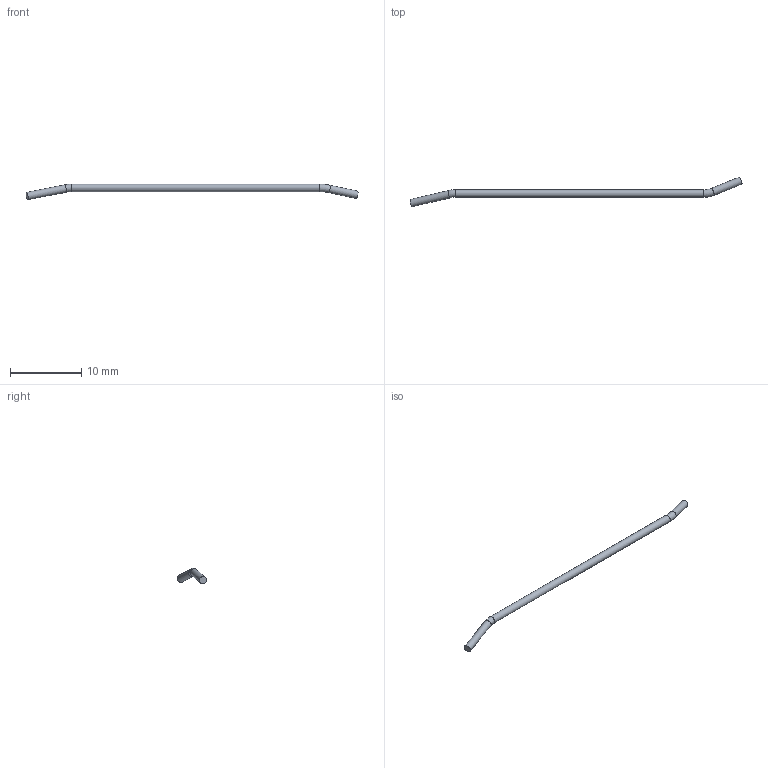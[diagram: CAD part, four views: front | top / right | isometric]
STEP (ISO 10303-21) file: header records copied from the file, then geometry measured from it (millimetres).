
FILE_DESCRIPTION(('Open CASCADE Model'),'2;1');
FILE_NAME('Open CASCADE Shape Model','2026-09-15T14:44:51',('Author'),( 'Open CASCADE'),'Open CASCADE STEP processor 7.7','Open CASCADE 7.7' ,'Unknown');
FILE_SCHEMA(('AUTOMOTIVE_DESIGN { 1 0 10303 214 1 1 1 1 }'));
Length unit declared in the file: millimetre
Products named in the file (1): COMPOUND
Bounding box: 46.67 x 4.15 x 2.19 mm (x, y, z)
Volume: 40.7 mm3; surface area: 156.7 mm2
Topology: 1 solids, 1 shells, 7 faces, 11 edges, 6 vertices
Faces by surface type: cylinder 3, torus 2, plane 2
Full cylindrical faces by diameter (mm): 1.05 x3
Entity records: 305 total; most frequent: CARTESIAN_POINT 56, DIRECTION 48, ORIENTED_EDGE 22, PCURVE 22, DEFINITIONAL_REPRESENTATION 22, AXIS2_PLACEMENT_3D 16, LINE 14, VECTOR 14
